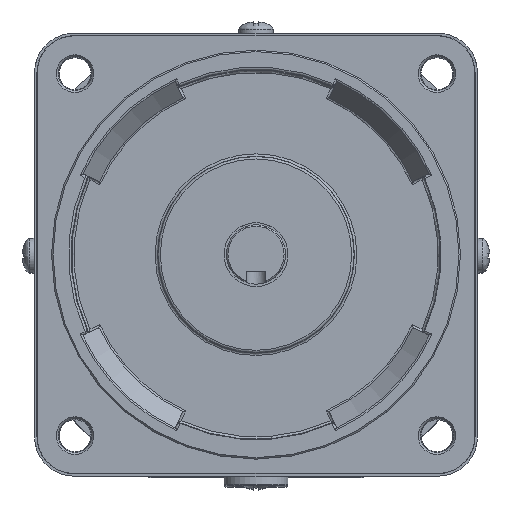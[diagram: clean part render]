
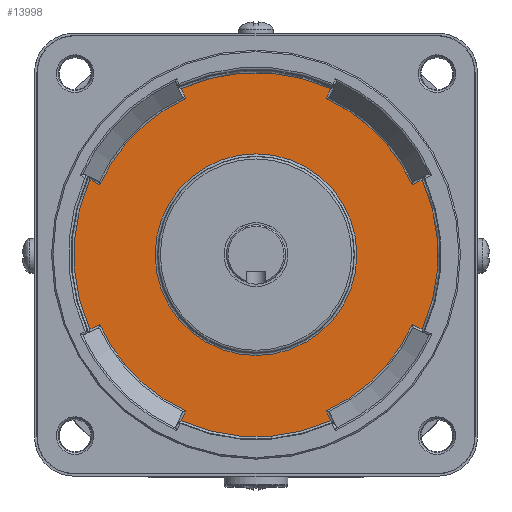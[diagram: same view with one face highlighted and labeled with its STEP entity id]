
A CAD part, top view. The second image highlights one B-rep face of the part: STEP entity #13998.
In plain terms, the highlighted planar face has unit normal (0, 0, 1).
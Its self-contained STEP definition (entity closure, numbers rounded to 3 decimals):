
#29 = VECTOR ( 'NONE', #8708, 1000. ) ;
#206 = CARTESIAN_POINT ( 'NONE',  ( 0., 0., -2. ) ) ;
#239 = DIRECTION ( 'NONE',  ( 1., 0., 0. ) ) ;
#297 = LINE ( 'NONE', #5548, #9726 ) ;
#468 = CARTESIAN_POINT ( 'NONE',  ( 14.242, -31.725, -2. ) ) ;
#510 = EDGE_CURVE ( 'NONE', #7499, #9785, #10213, .T. ) ;
#680 = VERTEX_POINT ( 'NONE', #3676 ) ;
#818 = ORIENTED_EDGE ( 'NONE', *, *, #8609, .T. ) ;
#1064 = EDGE_CURVE ( 'NONE', #3107, #4025, #12506, .T. ) ;
#1271 = CARTESIAN_POINT ( 'NONE',  ( 0., 0., -2. ) ) ;
#1429 = DIRECTION ( 'NONE',  ( 0., 0., 1. ) ) ;
#1437 = CARTESIAN_POINT ( 'NONE',  ( -0.453, -0.211, -2. ) ) ;
#1484 = VECTOR ( 'NONE', #2550, 1000. ) ;
#1490 = AXIS2_PLACEMENT_3D ( 'NONE', #15597, #3248, #9263 ) ;
#1594 = EDGE_CURVE ( 'NONE', #3666, #15647, #297, .T. ) ;
#1676 = CARTESIAN_POINT ( 'NONE',  ( -14.242, 31.725, -2. ) ) ;
#1762 = CIRCLE ( 'NONE', #8834, 37.013 ) ;
#1940 = ORIENTED_EDGE ( 'NONE', *, *, #8786, .T. ) ;
#2248 = AXIS2_PLACEMENT_3D ( 'NONE', #1271, #3822, #5170 ) ;
#2270 = EDGE_CURVE ( 'NONE', #11440, #4440, #8878, .T. ) ;
#2419 = CARTESIAN_POINT ( 'NONE',  ( -31.725, -14.242, -2. ) ) ;
#2550 = DIRECTION ( 'NONE',  ( -0.423, 0.906, 0. ) ) ;
#2607 = CARTESIAN_POINT ( 'NONE',  ( 33.753, -15.188, -2. ) ) ;
#2696 = ORIENTED_EDGE ( 'NONE', *, *, #7156, .T. ) ;
#2819 = VERTEX_POINT ( 'NONE', #2419 ) ;
#2921 = LINE ( 'NONE', #10520, #6380 ) ;
#3052 = DIRECTION ( 'NONE',  ( 1., 0., 0. ) ) ;
#3089 = CARTESIAN_POINT ( 'NONE',  ( -15.188, -33.753, -2. ) ) ;
#3107 = VERTEX_POINT ( 'NONE', #468 ) ;
#3131 = FACE_BOUND ( 'NONE', #13893, .T. ) ;
#3248 = DIRECTION ( 'NONE',  ( 0., 0., -1. ) ) ;
#3293 = CARTESIAN_POINT ( 'NONE',  ( -33.753, -15.188, -2. ) ) ;
#3441 = LINE ( 'NONE', #11850, #15520 ) ;
#3521 = VECTOR ( 'NONE', #13365, 1000. ) ;
#3525 = DIRECTION ( 'NONE',  ( 0.423, 0.906, 0. ) ) ;
#3576 = CARTESIAN_POINT ( 'NONE',  ( -0.211, 0.453, -2. ) ) ;
#3666 = VERTEX_POINT ( 'NONE', #12907 ) ;
#3676 = CARTESIAN_POINT ( 'NONE',  ( 14.242, 31.725, -2. ) ) ;
#3765 = CARTESIAN_POINT ( 'NONE',  ( 0., 0., -2. ) ) ;
#3822 = DIRECTION ( 'NONE',  ( 0., 0., 1. ) ) ;
#3883 = AXIS2_PLACEMENT_3D ( 'NONE', #5362, #12737, #11623 ) ;
#3936 = CARTESIAN_POINT ( 'NONE',  ( 31.725, 14.242, -2. ) ) ;
#4025 = VERTEX_POINT ( 'NONE', #15337 ) ;
#4104 = VERTEX_POINT ( 'NONE', #3293 ) ;
#4244 = PLANE ( 'NONE',  #8825 ) ;
#4440 = VERTEX_POINT ( 'NONE', #1676 ) ;
#4780 = CIRCLE ( 'NONE', #9077, 34.775 ) ;
#4828 = DIRECTION ( 'NONE',  ( 0., 0., 1. ) ) ;
#5159 = CARTESIAN_POINT ( 'NONE',  ( 0., 0., -2. ) ) ;
#5170 = DIRECTION ( 'NONE',  ( 1., 0., 0. ) ) ;
#5362 = CARTESIAN_POINT ( 'NONE',  ( 0., 0., -2. ) ) ;
#5363 = CARTESIAN_POINT ( 'NONE',  ( 33.753, 15.188, -2. ) ) ;
#5436 = ORIENTED_EDGE ( 'NONE', *, *, #510, .T. ) ;
#5548 = CARTESIAN_POINT ( 'NONE',  ( -34.198, 15.395, -2. ) ) ;
#5894 = VERTEX_POINT ( 'NONE', #14801 ) ;
#5927 = AXIS2_PLACEMENT_3D ( 'NONE', #5159, #8633, #239 ) ;
#6380 = VECTOR ( 'NONE', #14098, 1000. ) ;
#6417 = ORIENTED_EDGE ( 'NONE', *, *, #14899, .T. ) ;
#6794 = ORIENTED_EDGE ( 'NONE', *, *, #6960, .T. ) ;
#6897 = CARTESIAN_POINT ( 'NONE',  ( 0., 0., -2. ) ) ;
#6960 = EDGE_CURVE ( 'NONE', #4025, #7499, #14776, .T. ) ;
#7026 = CIRCLE ( 'NONE', #1490, 20.491 ) ;
#7128 = DIRECTION ( 'NONE',  ( 1., 0., 0. ) ) ;
#7156 = EDGE_CURVE ( 'NONE', #12875, #3107, #8725, .T. ) ;
#7180 = CIRCLE ( 'NONE', #9224, 34.775 ) ;
#7263 = CARTESIAN_POINT ( 'NONE',  ( 0., 0., -2. ) ) ;
#7347 = EDGE_CURVE ( 'NONE', #12969, #11440, #1762, .T. ) ;
#7428 = CARTESIAN_POINT ( 'NONE',  ( -15.188, 33.753, -2. ) ) ;
#7437 = LINE ( 'NONE', #3576, #29 ) ;
#7471 = VERTEX_POINT ( 'NONE', #14940 ) ;
#7499 = VERTEX_POINT ( 'NONE', #2607 ) ;
#7608 = CARTESIAN_POINT ( 'NONE',  ( 0., 0., -2. ) ) ;
#7714 = DIRECTION ( 'NONE',  ( 1., 0., 0. ) ) ;
#7824 = ORIENTED_EDGE ( 'NONE', *, *, #12570, .T. ) ;
#8032 = CARTESIAN_POINT ( 'NONE',  ( 15.188, 33.753, -2. ) ) ;
#8454 = ORIENTED_EDGE ( 'NONE', *, *, #7347, .T. ) ;
#8609 = EDGE_CURVE ( 'NONE', #4104, #2819, #7437, .T. ) ;
#8633 = DIRECTION ( 'NONE',  ( 0., 0., 1. ) ) ;
#8708 = DIRECTION ( 'NONE',  ( 0.906, 0.423, 0. ) ) ;
#8725 = LINE ( 'NONE', #1437, #1484 ) ;
#8786 = EDGE_CURVE ( 'NONE', #9785, #12580, #11413, .T. ) ;
#8823 = CARTESIAN_POINT ( 'NONE',  ( 15.188, -33.753, -2. ) ) ;
#8825 = AXIS2_PLACEMENT_3D ( 'NONE', #11443, #9149, #3052 ) ;
#8834 = AXIS2_PLACEMENT_3D ( 'NONE', #6897, #11818, #7128 ) ;
#8861 = ORIENTED_EDGE ( 'NONE', *, *, #9868, .T. ) ;
#8878 = LINE ( 'NONE', #9834, #14811 ) ;
#8903 = DIRECTION ( 'NONE',  ( 0., 0., 1. ) ) ;
#9077 = AXIS2_PLACEMENT_3D ( 'NONE', #3765, #8903, #9927 ) ;
#9149 = DIRECTION ( 'NONE',  ( 0., 0., 1. ) ) ;
#9224 = AXIS2_PLACEMENT_3D ( 'NONE', #7608, #1429, #13414 ) ;
#9263 = DIRECTION ( 'NONE',  ( 1., 0., 0. ) ) ;
#9347 = CIRCLE ( 'NONE', #2248, 37.013 ) ;
#9466 = EDGE_CURVE ( 'NONE', #5894, #12322, #2921, .T. ) ;
#9538 = CIRCLE ( 'NONE', #12324, 37.013 ) ;
#9726 = VECTOR ( 'NONE', #13949, 1000. ) ;
#9785 = VERTEX_POINT ( 'NONE', #5363 ) ;
#9790 = DIRECTION ( 'NONE',  ( 1., 0., 0. ) ) ;
#9834 = CARTESIAN_POINT ( 'NONE',  ( 0.453, 0.211, -2. ) ) ;
#9862 = CARTESIAN_POINT ( 'NONE',  ( 34.198, -15.395, -2. ) ) ;
#9868 = EDGE_CURVE ( 'NONE', #680, #12969, #3441, .T. ) ;
#9927 = DIRECTION ( 'NONE',  ( 1., 0., 0. ) ) ;
#10064 = AXIS2_PLACEMENT_3D ( 'NONE', #7263, #4828, #7714 ) ;
#10067 = DIRECTION ( 'NONE',  ( 0.423, -0.906, 0. ) ) ;
#10134 = DIRECTION ( 'NONE',  ( -0.906, -0.423, 0. ) ) ;
#10213 = CIRCLE ( 'NONE', #3883, 37.013 ) ;
#10520 = CARTESIAN_POINT ( 'NONE',  ( -15.395, -34.198, -2. ) ) ;
#11096 = EDGE_CURVE ( 'NONE', #4440, #3666, #7180, .T. ) ;
#11413 = LINE ( 'NONE', #13711, #14228 ) ;
#11440 = VERTEX_POINT ( 'NONE', #7428 ) ;
#11443 = CARTESIAN_POINT ( 'NONE',  ( 0., 0., -2. ) ) ;
#11462 = ORIENTED_EDGE ( 'NONE', *, *, #1594, .T. ) ;
#11623 = DIRECTION ( 'NONE',  ( 1., 0., 0. ) ) ;
#11818 = DIRECTION ( 'NONE',  ( 0., 0., 1. ) ) ;
#11850 = CARTESIAN_POINT ( 'NONE',  ( 15.395, 34.198, -2. ) ) ;
#12035 = ORIENTED_EDGE ( 'NONE', *, *, #9466, .T. ) ;
#12062 = ORIENTED_EDGE ( 'NONE', *, *, #13841, .T. ) ;
#12322 = VERTEX_POINT ( 'NONE', #3089 ) ;
#12324 = AXIS2_PLACEMENT_3D ( 'NONE', #206, #12334, #9790 ) ;
#12334 = DIRECTION ( 'NONE',  ( 0., 0., 1. ) ) ;
#12506 = CIRCLE ( 'NONE', #5927, 34.775 ) ;
#12570 = EDGE_CURVE ( 'NONE', #12322, #12875, #9538, .T. ) ;
#12580 = VERTEX_POINT ( 'NONE', #3936 ) ;
#12583 = ORIENTED_EDGE ( 'NONE', *, *, #11096, .T. ) ;
#12737 = DIRECTION ( 'NONE',  ( 0., 0., 1. ) ) ;
#12875 = VERTEX_POINT ( 'NONE', #8823 ) ;
#12907 = CARTESIAN_POINT ( 'NONE',  ( -31.725, 14.242, -2. ) ) ;
#12969 = VERTEX_POINT ( 'NONE', #8032 ) ;
#12971 = ORIENTED_EDGE ( 'NONE', *, *, #15129, .T. ) ;
#13365 = DIRECTION ( 'NONE',  ( 0.906, -0.423, 0. ) ) ;
#13414 = DIRECTION ( 'NONE',  ( 1., 0., 0. ) ) ;
#13711 = CARTESIAN_POINT ( 'NONE',  ( 0.211, -0.453, -2. ) ) ;
#13772 = ORIENTED_EDGE ( 'NONE', *, *, #1064, .T. ) ;
#13841 = EDGE_CURVE ( 'NONE', #2819, #5894, #4780, .T. ) ;
#13893 = EDGE_LOOP ( 'NONE', ( #6417 ) ) ;
#13949 = DIRECTION ( 'NONE',  ( -0.906, 0.423, 0. ) ) ;
#13998 = ADVANCED_FACE ( 'NONE', ( #15094, #3131 ), #4244, .T. ) ;
#14098 = DIRECTION ( 'NONE',  ( -0.423, -0.906, 0. ) ) ;
#14228 = VECTOR ( 'NONE', #10134, 1000. ) ;
#14318 = EDGE_CURVE ( 'NONE', #15647, #4104, #9347, .T. ) ;
#14599 = CARTESIAN_POINT ( 'NONE',  ( -33.753, 15.188, -2. ) ) ;
#14616 = ORIENTED_EDGE ( 'NONE', *, *, #2270, .T. ) ;
#14667 = EDGE_LOOP ( 'NONE', ( #13772, #6794, #5436, #1940, #12971, #8861, #8454, #14616, #12583, #11462, #15121, #818, #12062, #12035, #7824, #2696 ) ) ;
#14776 = LINE ( 'NONE', #9862, #3521 ) ;
#14801 = CARTESIAN_POINT ( 'NONE',  ( -14.242, -31.725, -2. ) ) ;
#14811 = VECTOR ( 'NONE', #10067, 1000. ) ;
#14899 = EDGE_CURVE ( 'NONE', #7471, #7471, #7026, .T. ) ;
#14940 = CARTESIAN_POINT ( 'NONE',  ( 20.491, 0., -2. ) ) ;
#15094 = FACE_OUTER_BOUND ( 'NONE', #14667, .T. ) ;
#15121 = ORIENTED_EDGE ( 'NONE', *, *, #14318, .T. ) ;
#15129 = EDGE_CURVE ( 'NONE', #12580, #680, #15399, .T. ) ;
#15337 = CARTESIAN_POINT ( 'NONE',  ( 31.725, -14.242, -2. ) ) ;
#15399 = CIRCLE ( 'NONE', #10064, 34.775 ) ;
#15520 = VECTOR ( 'NONE', #3525, 1000. ) ;
#15597 = CARTESIAN_POINT ( 'NONE',  ( 0., 0., -2. ) ) ;
#15647 = VERTEX_POINT ( 'NONE', #14599 ) ;
